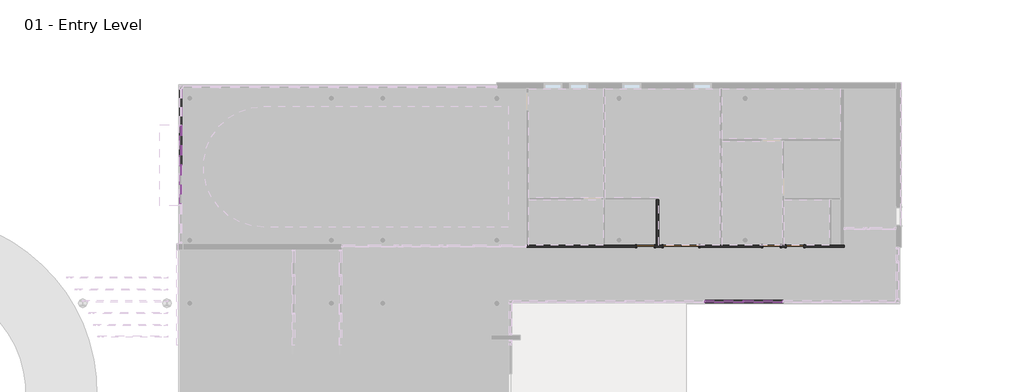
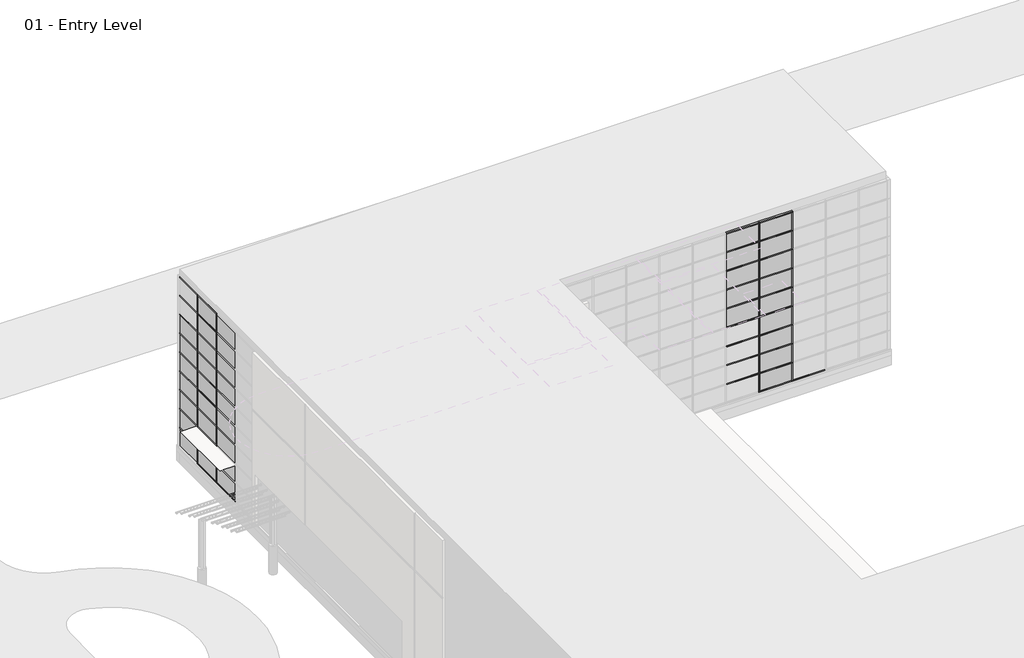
# One storey, part 27 of 35: 76 members, 39 plates, 4 doors, 2 walls.
"""IFC4 building model written with IfcOpenShell, lengths in millimetres."""

from ifc_helpers import new_model, si_unit, origin, origin_with_axes, place, context, project, spatial, polyline, outline, extrude, faceted_brep, transform, mapped, element, save
from components import door_5c6be3c9, door_305aa2a5, door_e5f9f3c4, member_2b49869a, member_391b434c, member_9e90ae50, member_bdc0ab2a, member_d73967ec, system_panel_glazed_1b9d6098, system_panel_glazed_70da479d, system_panel_glazed_16bdbcd7, system_panel_glazed_acb8865d, system_panel_solid_b376696c, system_panel_solid_77e8b053, system_panel_solid_f3cfc6ec

model = new_model("IFC4")

# Units and contexts
model_context = context("Model", 3, world=origin())
ifc_project = project(units=[si_unit("LENGTHUNIT", "METRE", prefix="MILLI")], contexts=[model_context])

# Site, building, storey
site = spatial("IfcSite", under=ifc_project)
building = spatial("IfcBuilding", under=site)
storey = spatial("IfcBuildingStorey", under=building, Name="01 - Entry Level", Elevation=0.0)

# Doors
placement = place(None, origin())
door_shape = door_5c6be3c9(model_context)
element("IfcDoor", 1, ObjectType="Double-Flush : 72\" x 84\"", at=placement, inside=storey, context=model_context, shape_type="MappedRepresentation", body=[
    mapped(door_shape, transform((25985.1207476, 45602.45, 0.0), x_axis=(-1.0, 0.0, 0.0), y_axis=(0.0, -1.0, 0.0), z_axis=(0.0, 0.0, 1.0))),
])
door_2_shape = door_305aa2a5(model_context)
element("IfcDoor", 2, ObjectType="Single-Flush : 36\" x 84\"", at=placement, inside=storey, context=model_context, shape_type="MappedRepresentation", body=[
    mapped(door_2_shape, transform((31865.2207476, 45602.45, 0.0), x_axis=(-1.0, 0.0, 0.0), y_axis=(0.0, -1.0, 0.0), z_axis=(0.0, 0.0, 1.0))),
])
door_3_shape = door_e5f9f3c4(model_context)
element("IfcDoor", 3, ObjectType="Single-Flush : 36\" x 84\"", at=placement, inside=storey, context=model_context, shape_type="MappedRepresentation", body=[
    mapped(door_3_shape, transform((30646.0207476, 45602.45, 0.0), x_axis=(1.0, 0.0, 0.0), y_axis=(0.0, 1.0, 0.0), z_axis=(0.0, 0.0, 1.0))),
])
element("IfcDoor", 4, ObjectType="Single-Flush : 36\" x 84\" 20 Minute Rated", at=placement, inside=storey, context=model_context, shape_type="MappedRepresentation", body=[
    mapped(door_3_shape, transform((24156.3207476, 45602.45, 0.0), x_axis=(1.0, 0.0, 0.0), y_axis=(0.0, 1.0, 0.0), z_axis=(0.0, 0.0, 1.0))),
])

# Members
member_shape = member_2b49869a(model_context)
element("IfcMember", 5, ObjectType="Rectangular Mullion : 2.5\" x 5\" rectangular", at=placement, inside=storey, context=model_context, shape_type="MappedRepresentation", body=[
    mapped(member_shape, transform((29198.2207476, 42751.3, 9753.6), x_axis=(1.0, 0.0, 0.0), y_axis=(0.0, -1.0, 0.0), z_axis=(0.0, 0.0, -1.0))),
])
element("IfcMember", 6, ObjectType="Rectangular Mullion : 2.5\" x 5\" rectangular", at=placement, inside=storey, context=model_context, shape_type="MappedRepresentation", body=[
    mapped(member_shape, transform((31230.2207476, 42751.3, 9753.6), x_axis=(1.0, 0.0, 0.0), y_axis=(0.0, -1.0, 0.0), z_axis=(0.0, 0.0, -1.0))),
])
element("IfcMember", 7, ObjectType="Rectangular Mullion : 2.5\" x 5\" rectangular", at=placement, inside=storey, context=model_context, shape_type="MappedRepresentation", body=[
    mapped(member_shape, transform((178.7207476, 51812.75, 9753.6), x_axis=(0.0, -1.0, 0.0), y_axis=(-1.0, 0.0, 0.0), z_axis=(0.0, 0.0, -1.0))),
])
element("IfcMember", 8, ObjectType="Rectangular Mullion : 2.5\" x 5\" rectangular", at=placement, inside=storey, context=model_context, shape_type="MappedRepresentation", body=[
    mapped(member_shape, transform((178.7207476, 49780.75, 9753.6), x_axis=(0.0, -1.0, 0.0), y_axis=(-1.0, 0.0, 0.0), z_axis=(0.0, 0.0, -1.0))),
])
member_2_shape = member_391b434c(model_context)
element("IfcMember", 9, ObjectType="Rectangular Mullion : 2.5\" x 5\" rectangular", at=placement, inside=storey, context=model_context, shape_type="MappedRepresentation", body=[
    mapped(member_2_shape, transform((29166.4707476, 42751.3, 10972.8), x_axis=(0.0, 0.0, 1.0), y_axis=(0.0, -1.0, 0.0), z_axis=(1.0, 0.0, 0.0))),
])
element("IfcMember", 10, ObjectType="Rectangular Mullion : 2.5\" x 5\" rectangular", at=placement, inside=storey, context=model_context, shape_type="MappedRepresentation", body=[
    mapped(member_2_shape, transform((31198.4707476, 42751.3, 10972.8), x_axis=(0.0, 0.0, 1.0), y_axis=(0.0, -1.0, 0.0), z_axis=(1.0, 0.0, 0.0))),
])
element("IfcMember", 11, ObjectType="Rectangular Mullion : 2.5\" x 5\" rectangular", at=placement, inside=storey, context=model_context, shape_type="MappedRepresentation", body=[
    mapped(member_2_shape, transform((178.7207476, 49812.5, 10972.8), x_axis=(0.0, 0.0, 1.0), y_axis=(-1.0, 0.0, 0.0), z_axis=(0.0, -1.0, 0.0))),
])
element("IfcMember", 12, ObjectType="Rectangular Mullion : 2.5\" x 5\" rectangular", at=placement, inside=storey, context=model_context, shape_type="MappedRepresentation", body=[
    mapped(member_2_shape, transform((29229.9707476, 42751.3, 0.0), x_axis=(0.0, 0.0, -1.0), y_axis=(0.0, -1.0, 0.0), z_axis=(-1.0, 0.0, 0.0))),
])
element("IfcMember", 13, ObjectType="Rectangular Mullion : 2.5\" x 5\" rectangular", at=placement, inside=storey, context=model_context, shape_type="MappedRepresentation", body=[
    mapped(member_2_shape, transform((31261.9707476, 42751.3, 0.0), x_axis=(0.0, 0.0, -1.0), y_axis=(0.0, -1.0, 0.0), z_axis=(-1.0, 0.0, 0.0))),
])
element("IfcMember", 14, ObjectType="Rectangular Mullion : 2.5\" x 5\" rectangular", at=placement, inside=storey, context=model_context, shape_type="MappedRepresentation", body=[
    mapped(member_2_shape, transform((178.7207476, 51781.0, 0.0), x_axis=(0.0, 0.0, -1.0), y_axis=(-1.0, 0.0, 0.0), z_axis=(0.0, 1.0, 0.0))),
])
element("IfcMember", 15, ObjectType="Rectangular Mullion : 2.5\" x 5\" rectangular", at=placement, inside=storey, context=model_context, shape_type="MappedRepresentation", body=[
    mapped(member_2_shape, transform((178.7207476, 49749.0, 0.0), x_axis=(0.0, 0.0, -1.0), y_axis=(-1.0, 0.0, 0.0), z_axis=(0.0, 1.0, 0.0))),
])
member_3_shape = member_9e90ae50(model_context)
element("IfcMember", 16, ObjectType="Rectangular Mullion : 2.5\" x 5\" rectangular", at=placement, inside=storey, context=model_context, shape_type="MappedRepresentation", body=[
    mapped(member_3_shape, transform((29166.4707476, 42751.3, 1219.2), x_axis=(0.0, 0.0, 1.0), y_axis=(0.0, -1.0, 0.0), z_axis=(1.0, 0.0, 0.0))),
])
element("IfcMember", 17, ObjectType="Rectangular Mullion : 2.5\" x 5\" rectangular", at=placement, inside=storey, context=model_context, shape_type="MappedRepresentation", body=[
    mapped(member_3_shape, transform((31198.4707476, 42751.3, 1219.2), x_axis=(0.0, 0.0, 1.0), y_axis=(0.0, -1.0, 0.0), z_axis=(1.0, 0.0, 0.0))),
])
element("IfcMember", 18, ObjectType="Rectangular Mullion : 2.5\" x 5\" rectangular", at=placement, inside=storey, context=model_context, shape_type="MappedRepresentation", body=[
    mapped(member_3_shape, transform((29166.4707476, 42751.3, 2438.4), x_axis=(0.0, 0.0, 1.0), y_axis=(0.0, -1.0, 0.0), z_axis=(1.0, 0.0, 0.0))),
])
element("IfcMember", 19, ObjectType="Rectangular Mullion : 2.5\" x 5\" rectangular", at=placement, inside=storey, context=model_context, shape_type="MappedRepresentation", body=[
    mapped(member_3_shape, transform((31198.4707476, 42751.3, 2438.4), x_axis=(0.0, 0.0, 1.0), y_axis=(0.0, -1.0, 0.0), z_axis=(1.0, 0.0, 0.0))),
])
element("IfcMember", 20, ObjectType="Rectangular Mullion : 2.5\" x 5\" rectangular", at=placement, inside=storey, context=model_context, shape_type="MappedRepresentation", body=[
    mapped(member_3_shape, transform((29166.4707476, 42751.3, 3657.6), x_axis=(0.0, 0.0, 1.0), y_axis=(0.0, -1.0, 0.0), z_axis=(1.0, 0.0, 0.0))),
])
element("IfcMember", 21, ObjectType="Rectangular Mullion : 2.5\" x 5\" rectangular", at=placement, inside=storey, context=model_context, shape_type="MappedRepresentation", body=[
    mapped(member_3_shape, transform((31198.4707476, 42751.3, 3657.6), x_axis=(0.0, 0.0, 1.0), y_axis=(0.0, -1.0, 0.0), z_axis=(1.0, 0.0, 0.0))),
])
element("IfcMember", 22, ObjectType="Rectangular Mullion : 2.5\" x 5\" rectangular", at=placement, inside=storey, context=model_context, shape_type="MappedRepresentation", body=[
    mapped(member_3_shape, transform((29166.4707476, 42751.3, 4876.8), x_axis=(0.0, 0.0, 1.0), y_axis=(0.0, -1.0, 0.0), z_axis=(1.0, 0.0, 0.0))),
])
element("IfcMember", 23, ObjectType="Rectangular Mullion : 2.5\" x 5\" rectangular", at=placement, inside=storey, context=model_context, shape_type="MappedRepresentation", body=[
    mapped(member_3_shape, transform((31198.4707476, 42751.3, 4876.8), x_axis=(0.0, 0.0, 1.0), y_axis=(0.0, -1.0, 0.0), z_axis=(1.0, 0.0, 0.0))),
])
element("IfcMember", 24, ObjectType="Rectangular Mullion : 2.5\" x 5\" rectangular", at=placement, inside=storey, context=model_context, shape_type="MappedRepresentation", body=[
    mapped(member_3_shape, transform((29166.4707476, 42751.3, 6096.0), x_axis=(0.0, 0.0, 1.0), y_axis=(0.0, -1.0, 0.0), z_axis=(1.0, 0.0, 0.0))),
])
element("IfcMember", 25, ObjectType="Rectangular Mullion : 2.5\" x 5\" rectangular", at=placement, inside=storey, context=model_context, shape_type="MappedRepresentation", body=[
    mapped(member_3_shape, transform((31198.4707476, 42751.3, 6096.0), x_axis=(0.0, 0.0, 1.0), y_axis=(0.0, -1.0, 0.0), z_axis=(1.0, 0.0, 0.0))),
])
element("IfcMember", 26, ObjectType="Rectangular Mullion : 2.5\" x 5\" rectangular", at=placement, inside=storey, context=model_context, shape_type="MappedRepresentation", body=[
    mapped(member_3_shape, transform((29166.4707476, 42751.3, 7315.2), x_axis=(0.0, 0.0, 1.0), y_axis=(0.0, -1.0, 0.0), z_axis=(1.0, 0.0, 0.0))),
])
element("IfcMember", 27, ObjectType="Rectangular Mullion : 2.5\" x 5\" rectangular", at=placement, inside=storey, context=model_context, shape_type="MappedRepresentation", body=[
    mapped(member_3_shape, transform((31198.4707476, 42751.3, 7315.2), x_axis=(0.0, 0.0, 1.0), y_axis=(0.0, -1.0, 0.0), z_axis=(1.0, 0.0, 0.0))),
])
element("IfcMember", 28, ObjectType="Rectangular Mullion : 2.5\" x 5\" rectangular", at=placement, inside=storey, context=model_context, shape_type="MappedRepresentation", body=[
    mapped(member_3_shape, transform((29166.4707476, 42751.3, 8534.4), x_axis=(0.0, 0.0, 1.0), y_axis=(0.0, -1.0, 0.0), z_axis=(1.0, 0.0, 0.0))),
])
element("IfcMember", 29, ObjectType="Rectangular Mullion : 2.5\" x 5\" rectangular", at=placement, inside=storey, context=model_context, shape_type="MappedRepresentation", body=[
    mapped(member_3_shape, transform((31198.4707476, 42751.3, 8534.4), x_axis=(0.0, 0.0, 1.0), y_axis=(0.0, -1.0, 0.0), z_axis=(1.0, 0.0, 0.0))),
])
element("IfcMember", 30, ObjectType="Rectangular Mullion : 2.5\" x 5\" rectangular", at=placement, inside=storey, context=model_context, shape_type="MappedRepresentation", body=[
    mapped(member_3_shape, transform((29166.4707476, 42751.3, 9753.6), x_axis=(0.0, 0.0, 1.0), y_axis=(0.0, -1.0, 0.0), z_axis=(1.0, 0.0, 0.0))),
])
element("IfcMember", 31, ObjectType="Rectangular Mullion : 2.5\" x 5\" rectangular", at=placement, inside=storey, context=model_context, shape_type="MappedRepresentation", body=[
    mapped(member_3_shape, transform((31198.4707476, 42751.3, 9753.6), x_axis=(0.0, 0.0, 1.0), y_axis=(0.0, -1.0, 0.0), z_axis=(1.0, 0.0, 0.0))),
])
element("IfcMember", 32, ObjectType="Rectangular Mullion : 2.5\" x 5\" rectangular", at=placement, inside=storey, context=model_context, shape_type="MappedRepresentation", body=[
    mapped(member_3_shape, transform((178.7207476, 49812.5, 1219.2), x_axis=(0.0, 0.0, 1.0), y_axis=(-1.0, 0.0, 0.0), z_axis=(0.0, -1.0, 0.0))),
])
element("IfcMember", 33, ObjectType="Rectangular Mullion : 2.5\" x 5\" rectangular", at=placement, inside=storey, context=model_context, shape_type="MappedRepresentation", body=[
    mapped(member_3_shape, transform((178.7207476, 49812.5, 2438.4), x_axis=(0.0, 0.0, 1.0), y_axis=(-1.0, 0.0, 0.0), z_axis=(0.0, -1.0, 0.0))),
])
element("IfcMember", 34, ObjectType="Rectangular Mullion : 2.5\" x 5\" rectangular", at=placement, inside=storey, context=model_context, shape_type="MappedRepresentation", body=[
    mapped(member_3_shape, transform((178.7207476, 49812.5, 3657.6), x_axis=(0.0, 0.0, 1.0), y_axis=(-1.0, 0.0, 0.0), z_axis=(0.0, -1.0, 0.0))),
])
element("IfcMember", 35, ObjectType="Rectangular Mullion : 2.5\" x 5\" rectangular", at=placement, inside=storey, context=model_context, shape_type="MappedRepresentation", body=[
    mapped(member_3_shape, transform((178.7207476, 49812.5, 4876.8), x_axis=(0.0, 0.0, 1.0), y_axis=(-1.0, 0.0, 0.0), z_axis=(0.0, -1.0, 0.0))),
])
element("IfcMember", 36, ObjectType="Rectangular Mullion : 2.5\" x 5\" rectangular", at=placement, inside=storey, context=model_context, shape_type="MappedRepresentation", body=[
    mapped(member_3_shape, transform((178.7207476, 49812.5, 6096.0), x_axis=(0.0, 0.0, 1.0), y_axis=(-1.0, 0.0, 0.0), z_axis=(0.0, -1.0, 0.0))),
])
element("IfcMember", 37, ObjectType="Rectangular Mullion : 2.5\" x 5\" rectangular", at=placement, inside=storey, context=model_context, shape_type="MappedRepresentation", body=[
    mapped(member_3_shape, transform((178.7207476, 49812.5, 7315.2), x_axis=(0.0, 0.0, 1.0), y_axis=(-1.0, 0.0, 0.0), z_axis=(0.0, -1.0, 0.0))),
])
element("IfcMember", 38, ObjectType="Rectangular Mullion : 2.5\" x 5\" rectangular", at=placement, inside=storey, context=model_context, shape_type="MappedRepresentation", body=[
    mapped(member_3_shape, transform((178.7207476, 49812.5, 8534.4), x_axis=(0.0, 0.0, 1.0), y_axis=(-1.0, 0.0, 0.0), z_axis=(0.0, -1.0, 0.0))),
])
element("IfcMember", 39, ObjectType="Rectangular Mullion : 2.5\" x 5\" rectangular", at=placement, inside=storey, context=model_context, shape_type="MappedRepresentation", body=[
    mapped(member_3_shape, transform((178.7207476, 49812.5, 9753.6), x_axis=(0.0, 0.0, 1.0), y_axis=(-1.0, 0.0, 0.0), z_axis=(0.0, -1.0, 0.0))),
])
element("IfcMember", 40, ObjectType="Rectangular Mullion : 2.5\" x 5\" rectangular", at=placement, inside=storey, context=model_context, shape_type="MappedRepresentation", body=[
    mapped(member_shape, transform((29198.2207476, 42751.3, 0.0), x_axis=(1.0, 0.0, 0.0), y_axis=(0.0, -1.0, 0.0), z_axis=(0.0, 0.0, -1.0))),
])
element("IfcMember", 41, ObjectType="Rectangular Mullion : 2.5\" x 5\" rectangular", at=placement, inside=storey, context=model_context, shape_type="MappedRepresentation", body=[
    mapped(member_shape, transform((31230.2207476, 42751.3, 0.0), x_axis=(1.0, 0.0, 0.0), y_axis=(0.0, -1.0, 0.0), z_axis=(0.0, 0.0, -1.0))),
])
element("IfcMember", 42, ObjectType="Rectangular Mullion : 2.5\" x 5\" rectangular", at=placement, inside=storey, context=model_context, shape_type="MappedRepresentation", body=[
    mapped(member_shape, transform((178.7207476, 51812.75, 0.0), x_axis=(0.0, -1.0, 0.0), y_axis=(-1.0, 0.0, 0.0), z_axis=(0.0, 0.0, -1.0))),
])
element("IfcMember", 43, ObjectType="Rectangular Mullion : 2.5\" x 5\" rectangular", at=placement, inside=storey, context=model_context, shape_type="MappedRepresentation", body=[
    mapped(member_shape, transform((178.7207476, 49780.75, 0.0), x_axis=(0.0, -1.0, 0.0), y_axis=(-1.0, 0.0, 0.0), z_axis=(0.0, 0.0, -1.0))),
])
element("IfcMember", 44, ObjectType="Rectangular Mullion : 2.5\" x 5\" rectangular", at=placement, inside=storey, context=model_context, shape_type="MappedRepresentation", body=[
    mapped(member_shape, transform((29198.2207476, 42751.3, 1219.2), x_axis=(1.0, 0.0, 0.0), y_axis=(0.0, -1.0, 0.0), z_axis=(0.0, 0.0, -1.0))),
])
element("IfcMember", 45, ObjectType="Rectangular Mullion : 2.5\" x 5\" rectangular", at=placement, inside=storey, context=model_context, shape_type="MappedRepresentation", body=[
    mapped(member_shape, transform((31230.2207476, 42751.3, 1219.2), x_axis=(1.0, 0.0, 0.0), y_axis=(0.0, -1.0, 0.0), z_axis=(0.0, 0.0, -1.0))),
])
element("IfcMember", 46, ObjectType="Rectangular Mullion : 2.5\" x 5\" rectangular", at=placement, inside=storey, context=model_context, shape_type="MappedRepresentation", body=[
    mapped(member_shape, transform((29198.2207476, 42751.3, 2438.4), x_axis=(1.0, 0.0, 0.0), y_axis=(0.0, -1.0, 0.0), z_axis=(0.0, 0.0, -1.0))),
])
element("IfcMember", 47, ObjectType="Rectangular Mullion : 2.5\" x 5\" rectangular", at=placement, inside=storey, context=model_context, shape_type="MappedRepresentation", body=[
    mapped(member_shape, transform((31230.2207476, 42751.3, 2438.4), x_axis=(1.0, 0.0, 0.0), y_axis=(0.0, -1.0, 0.0), z_axis=(0.0, 0.0, -1.0))),
])
element("IfcMember", 48, ObjectType="Rectangular Mullion : 2.5\" x 5\" rectangular", at=placement, inside=storey, context=model_context, shape_type="MappedRepresentation", body=[
    mapped(member_shape, transform((29198.2207476, 42751.3, 3657.6), x_axis=(1.0, 0.0, 0.0), y_axis=(0.0, -1.0, 0.0), z_axis=(0.0, 0.0, -1.0))),
])
element("IfcMember", 49, ObjectType="Rectangular Mullion : 2.5\" x 5\" rectangular", at=placement, inside=storey, context=model_context, shape_type="MappedRepresentation", body=[
    mapped(member_shape, transform((31230.2207476, 42751.3, 3657.6), x_axis=(1.0, 0.0, 0.0), y_axis=(0.0, -1.0, 0.0), z_axis=(0.0, 0.0, -1.0))),
])
element("IfcMember", 50, ObjectType="Rectangular Mullion : 2.5\" x 5\" rectangular", at=placement, inside=storey, context=model_context, shape_type="MappedRepresentation", body=[
    mapped(member_shape, transform((29198.2207476, 42751.3, 4876.8), x_axis=(1.0, 0.0, 0.0), y_axis=(0.0, -1.0, 0.0), z_axis=(0.0, 0.0, -1.0))),
])
element("IfcMember", 51, ObjectType="Rectangular Mullion : 2.5\" x 5\" rectangular", at=placement, inside=storey, context=model_context, shape_type="MappedRepresentation", body=[
    mapped(member_shape, transform((31230.2207476, 42751.3, 4876.8), x_axis=(1.0, 0.0, 0.0), y_axis=(0.0, -1.0, 0.0), z_axis=(0.0, 0.0, -1.0))),
])
element("IfcMember", 52, ObjectType="Rectangular Mullion : 2.5\" x 5\" rectangular", at=placement, inside=storey, context=model_context, shape_type="MappedRepresentation", body=[
    mapped(member_shape, transform((29198.2207476, 42751.3, 6096.0), x_axis=(1.0, 0.0, 0.0), y_axis=(0.0, -1.0, 0.0), z_axis=(0.0, 0.0, -1.0))),
])
element("IfcMember", 53, ObjectType="Rectangular Mullion : 2.5\" x 5\" rectangular", at=placement, inside=storey, context=model_context, shape_type="MappedRepresentation", body=[
    mapped(member_shape, transform((31230.2207476, 42751.3, 6096.0), x_axis=(1.0, 0.0, 0.0), y_axis=(0.0, -1.0, 0.0), z_axis=(0.0, 0.0, -1.0))),
])
element("IfcMember", 54, ObjectType="Rectangular Mullion : 2.5\" x 5\" rectangular", at=placement, inside=storey, context=model_context, shape_type="MappedRepresentation", body=[
    mapped(member_shape, transform((29198.2207476, 42751.3, 7315.2), x_axis=(1.0, 0.0, 0.0), y_axis=(0.0, -1.0, 0.0), z_axis=(0.0, 0.0, -1.0))),
])
element("IfcMember", 55, ObjectType="Rectangular Mullion : 2.5\" x 5\" rectangular", at=placement, inside=storey, context=model_context, shape_type="MappedRepresentation", body=[
    mapped(member_shape, transform((31230.2207476, 42751.3, 7315.2), x_axis=(1.0, 0.0, 0.0), y_axis=(0.0, -1.0, 0.0), z_axis=(0.0, 0.0, -1.0))),
])
element("IfcMember", 56, ObjectType="Rectangular Mullion : 2.5\" x 5\" rectangular", at=placement, inside=storey, context=model_context, shape_type="MappedRepresentation", body=[
    mapped(member_shape, transform((29198.2207476, 42751.3, 8534.4), x_axis=(1.0, 0.0, 0.0), y_axis=(0.0, -1.0, 0.0), z_axis=(0.0, 0.0, -1.0))),
])
element("IfcMember", 57, ObjectType="Rectangular Mullion : 2.5\" x 5\" rectangular", at=placement, inside=storey, context=model_context, shape_type="MappedRepresentation", body=[
    mapped(member_shape, transform((31230.2207476, 42751.3, 8534.4), x_axis=(1.0, 0.0, 0.0), y_axis=(0.0, -1.0, 0.0), z_axis=(0.0, 0.0, -1.0))),
])
element("IfcMember", 58, ObjectType="Rectangular Mullion : 2.5\" x 5\" rectangular", at=placement, inside=storey, context=model_context, shape_type="MappedRepresentation", body=[
    mapped(member_shape, transform((178.7207476, 51812.75, 1219.2), x_axis=(0.0, -1.0, 0.0), y_axis=(-1.0, 0.0, 0.0), z_axis=(0.0, 0.0, -1.0))),
])
element("IfcMember", 59, ObjectType="Rectangular Mullion : 2.5\" x 5\" rectangular", at=placement, inside=storey, context=model_context, shape_type="MappedRepresentation", body=[
    mapped(member_shape, transform((178.7207476, 49780.75, 1219.2), x_axis=(0.0, -1.0, 0.0), y_axis=(-1.0, 0.0, 0.0), z_axis=(0.0, 0.0, -1.0))),
])
element("IfcMember", 60, ObjectType="Rectangular Mullion : 2.5\" x 5\" rectangular", at=placement, inside=storey, context=model_context, shape_type="MappedRepresentation", body=[
    mapped(member_shape, transform((178.7207476, 51812.75, 2438.4), x_axis=(0.0, -1.0, 0.0), y_axis=(-1.0, 0.0, 0.0), z_axis=(0.0, 0.0, -1.0))),
])
element("IfcMember", 61, ObjectType="Rectangular Mullion : 2.5\" x 5\" rectangular", at=placement, inside=storey, context=model_context, shape_type="MappedRepresentation", body=[
    mapped(member_shape, transform((178.7207476, 49780.75, 2438.4), x_axis=(0.0, -1.0, 0.0), y_axis=(-1.0, 0.0, 0.0), z_axis=(0.0, 0.0, -1.0))),
])
element("IfcMember", 62, ObjectType="Rectangular Mullion : 2.5\" x 5\" rectangular", at=placement, inside=storey, context=model_context, shape_type="MappedRepresentation", body=[
    mapped(member_shape, transform((178.7207476, 51812.75, 3657.6), x_axis=(0.0, -1.0, 0.0), y_axis=(-1.0, 0.0, 0.0), z_axis=(0.0, 0.0, -1.0))),
])
element("IfcMember", 63, ObjectType="Rectangular Mullion : 2.5\" x 5\" rectangular", at=placement, inside=storey, context=model_context, shape_type="MappedRepresentation", body=[
    mapped(member_shape, transform((178.7207476, 49780.75, 3657.6), x_axis=(0.0, -1.0, 0.0), y_axis=(-1.0, 0.0, 0.0), z_axis=(0.0, 0.0, -1.0))),
])
element("IfcMember", 64, ObjectType="Rectangular Mullion : 2.5\" x 5\" rectangular", at=placement, inside=storey, context=model_context, shape_type="MappedRepresentation", body=[
    mapped(member_shape, transform((178.7207476, 51812.75, 4876.8), x_axis=(0.0, -1.0, 0.0), y_axis=(-1.0, 0.0, 0.0), z_axis=(0.0, 0.0, -1.0))),
])
element("IfcMember", 65, ObjectType="Rectangular Mullion : 2.5\" x 5\" rectangular", at=placement, inside=storey, context=model_context, shape_type="MappedRepresentation", body=[
    mapped(member_shape, transform((178.7207476, 49780.75, 4876.8), x_axis=(0.0, -1.0, 0.0), y_axis=(-1.0, 0.0, 0.0), z_axis=(0.0, 0.0, -1.0))),
])
element("IfcMember", 66, ObjectType="Rectangular Mullion : 2.5\" x 5\" rectangular", at=placement, inside=storey, context=model_context, shape_type="MappedRepresentation", body=[
    mapped(member_shape, transform((178.7207476, 51812.75, 6096.0), x_axis=(0.0, -1.0, 0.0), y_axis=(-1.0, 0.0, 0.0), z_axis=(0.0, 0.0, -1.0))),
])
element("IfcMember", 67, ObjectType="Rectangular Mullion : 2.5\" x 5\" rectangular", at=placement, inside=storey, context=model_context, shape_type="MappedRepresentation", body=[
    mapped(member_shape, transform((178.7207476, 49780.75, 6096.0), x_axis=(0.0, -1.0, 0.0), y_axis=(-1.0, 0.0, 0.0), z_axis=(0.0, 0.0, -1.0))),
])
element("IfcMember", 68, ObjectType="Rectangular Mullion : 2.5\" x 5\" rectangular", at=placement, inside=storey, context=model_context, shape_type="MappedRepresentation", body=[
    mapped(member_shape, transform((178.7207476, 51812.75, 7315.2), x_axis=(0.0, -1.0, 0.0), y_axis=(-1.0, 0.0, 0.0), z_axis=(0.0, 0.0, -1.0))),
])
element("IfcMember", 69, ObjectType="Rectangular Mullion : 2.5\" x 5\" rectangular", at=placement, inside=storey, context=model_context, shape_type="MappedRepresentation", body=[
    mapped(member_shape, transform((178.7207476, 49780.75, 7315.2), x_axis=(0.0, -1.0, 0.0), y_axis=(-1.0, 0.0, 0.0), z_axis=(0.0, 0.0, -1.0))),
])
element("IfcMember", 70, ObjectType="Rectangular Mullion : 2.5\" x 5\" rectangular", at=placement, inside=storey, context=model_context, shape_type="MappedRepresentation", body=[
    mapped(member_shape, transform((178.7207476, 51812.75, 8534.4), x_axis=(0.0, -1.0, 0.0), y_axis=(-1.0, 0.0, 0.0), z_axis=(0.0, 0.0, -1.0))),
])
element("IfcMember", 71, ObjectType="Rectangular Mullion : 2.5\" x 5\" rectangular", at=placement, inside=storey, context=model_context, shape_type="MappedRepresentation", body=[
    mapped(member_shape, transform((178.7207476, 49780.75, 8534.4), x_axis=(0.0, -1.0, 0.0), y_axis=(-1.0, 0.0, 0.0), z_axis=(0.0, 0.0, -1.0))),
])
member_4_shape = member_bdc0ab2a(model_context)
element("IfcMember", 72, ObjectType="Rectangular Mullion : 2.5\" x 5\" rectangular", at=placement, inside=storey, context=model_context, shape_type="MappedRepresentation", body=[
    mapped(member_4_shape, transform((178.7207476, 51844.5, 10972.8), x_axis=(0.0, 0.0, 1.0), y_axis=(-1.0, 0.0, 0.0), z_axis=(0.0, -1.0, 0.0))),
])
member_5_shape = member_d73967ec(model_context)
element("IfcMember", 73, ObjectType="Rectangular Mullion : 2.5\" x 5\" rectangular", at=placement, inside=storey, context=model_context, shape_type="MappedRepresentation", body=[
    mapped(member_5_shape, transform((178.7207476, 51844.5, 1219.2), x_axis=(0.0, 0.0, 1.0), y_axis=(-1.0, 0.0, 0.0), z_axis=(0.0, -1.0, 0.0))),
])
element("IfcMember", 74, ObjectType="Rectangular Mullion : 2.5\" x 5\" rectangular", at=placement, inside=storey, context=model_context, shape_type="MappedRepresentation", body=[
    mapped(member_5_shape, transform((178.7207476, 51844.5, 2438.4), x_axis=(0.0, 0.0, 1.0), y_axis=(-1.0, 0.0, 0.0), z_axis=(0.0, -1.0, 0.0))),
])
element("IfcMember", 75, ObjectType="Rectangular Mullion : 2.5\" x 5\" rectangular", at=placement, inside=storey, context=model_context, shape_type="MappedRepresentation", body=[
    mapped(member_5_shape, transform((178.7207476, 51844.5, 3657.6), x_axis=(0.0, 0.0, 1.0), y_axis=(-1.0, 0.0, 0.0), z_axis=(0.0, -1.0, 0.0))),
])
element("IfcMember", 76, ObjectType="Rectangular Mullion : 2.5\" x 5\" rectangular", at=placement, inside=storey, context=model_context, shape_type="MappedRepresentation", body=[
    mapped(member_5_shape, transform((178.7207476, 51844.5, 4876.8), x_axis=(0.0, 0.0, 1.0), y_axis=(-1.0, 0.0, 0.0), z_axis=(0.0, -1.0, 0.0))),
])
element("IfcMember", 77, ObjectType="Rectangular Mullion : 2.5\" x 5\" rectangular", at=placement, inside=storey, context=model_context, shape_type="MappedRepresentation", body=[
    mapped(member_5_shape, transform((178.7207476, 51844.5, 6096.0), x_axis=(0.0, 0.0, 1.0), y_axis=(-1.0, 0.0, 0.0), z_axis=(0.0, -1.0, 0.0))),
])
element("IfcMember", 78, ObjectType="Rectangular Mullion : 2.5\" x 5\" rectangular", at=placement, inside=storey, context=model_context, shape_type="MappedRepresentation", body=[
    mapped(member_5_shape, transform((178.7207476, 51844.5, 7315.2), x_axis=(0.0, 0.0, 1.0), y_axis=(-1.0, 0.0, 0.0), z_axis=(0.0, -1.0, 0.0))),
])
element("IfcMember", 79, ObjectType="Rectangular Mullion : 2.5\" x 5\" rectangular", at=placement, inside=storey, context=model_context, shape_type="MappedRepresentation", body=[
    mapped(member_5_shape, transform((178.7207476, 51844.5, 8534.4), x_axis=(0.0, 0.0, 1.0), y_axis=(-1.0, 0.0, 0.0), z_axis=(0.0, -1.0, 0.0))),
])
element("IfcMember", 80, ObjectType="Rectangular Mullion : 2.5\" x 5\" rectangular", at=placement, inside=storey, context=model_context, shape_type="MappedRepresentation", body=[
    mapped(member_5_shape, transform((178.7207476, 51844.5, 9753.6), x_axis=(0.0, 0.0, 1.0), y_axis=(-1.0, 0.0, 0.0), z_axis=(0.0, -1.0, 0.0))),
])

# Plates
system_panel_glazed_shape = system_panel_glazed_1b9d6098(model_context)
element("IfcPlate", 81, ObjectType="System Panel : Glazed", at=placement, inside=storey, context=model_context, shape_type="MappedRepresentation", body=[
    mapped(system_panel_glazed_shape, transform((30214.2207476, 42751.3, 63.5), x_axis=(1.0, 0.0, 0.0), y_axis=(0.0, 1.0, 0.0), z_axis=(0.0, 0.0, 1.0))),
])
element("IfcPlate", 82, ObjectType="System Panel : Glazed", at=placement, inside=storey, context=model_context, shape_type="MappedRepresentation", body=[
    mapped(system_panel_glazed_shape, transform((28182.2207476, 42751.3, 9785.35), x_axis=(1.0, 0.0, 0.0), y_axis=(0.0, 1.0, 0.0), z_axis=(0.0, 0.0, 1.0))),
])
element("IfcPlate", 83, ObjectType="System Panel : Glazed", at=placement, inside=storey, context=model_context, shape_type="MappedRepresentation", body=[
    mapped(system_panel_glazed_shape, transform((30214.2207476, 42751.3, 9785.35), x_axis=(1.0, 0.0, 0.0), y_axis=(0.0, 1.0, 0.0), z_axis=(0.0, 0.0, 1.0))),
])
element("IfcPlate", 84, ObjectType="System Panel : Glazed", at=placement, inside=storey, context=model_context, shape_type="MappedRepresentation", body=[
    mapped(system_panel_glazed_shape, transform((178.7207476, 50796.75, 63.5), x_axis=(0.0, -1.0, 0.0), y_axis=(1.0, 0.0, 0.0), z_axis=(0.0, 0.0, 1.0))),
])
element("IfcPlate", 85, ObjectType="System Panel : Glazed", at=placement, inside=storey, context=model_context, shape_type="MappedRepresentation", body=[
    mapped(system_panel_glazed_shape, transform((178.7207476, 48764.75, 63.5), x_axis=(0.0, -1.0, 0.0), y_axis=(1.0, 0.0, 0.0), z_axis=(0.0, 0.0, 1.0))),
])
system_panel_glazed_2_shape = system_panel_glazed_70da479d(model_context)
element("IfcPlate", 86, ObjectType="System Panel : Glazed", at=placement, inside=storey, context=model_context, shape_type="MappedRepresentation", body=[
    mapped(system_panel_glazed_2_shape, transform((30214.2207476, 42751.3, 1250.95), x_axis=(1.0, 0.0, 0.0), y_axis=(0.0, 1.0, 0.0), z_axis=(0.0, 0.0, 1.0))),
])
element("IfcPlate", 87, ObjectType="System Panel : Glazed", at=placement, inside=storey, context=model_context, shape_type="MappedRepresentation", body=[
    mapped(system_panel_glazed_2_shape, transform((30214.2207476, 42751.3, 2470.15), x_axis=(1.0, 0.0, 0.0), y_axis=(0.0, 1.0, 0.0), z_axis=(0.0, 0.0, 1.0))),
])
element("IfcPlate", 88, ObjectType="System Panel : Glazed", at=placement, inside=storey, context=model_context, shape_type="MappedRepresentation", body=[
    mapped(system_panel_glazed_2_shape, transform((30214.2207476, 42751.3, 3689.35), x_axis=(1.0, 0.0, 0.0), y_axis=(0.0, 1.0, 0.0), z_axis=(0.0, 0.0, 1.0))),
])
element("IfcPlate", 89, ObjectType="System Panel : Glazed", at=placement, inside=storey, context=model_context, shape_type="MappedRepresentation", body=[
    mapped(system_panel_glazed_2_shape, transform((28182.2207476, 42751.3, 4908.55), x_axis=(1.0, 0.0, 0.0), y_axis=(0.0, 1.0, 0.0), z_axis=(0.0, 0.0, 1.0))),
])
element("IfcPlate", 90, ObjectType="System Panel : Glazed", at=placement, inside=storey, context=model_context, shape_type="MappedRepresentation", body=[
    mapped(system_panel_glazed_2_shape, transform((30214.2207476, 42751.3, 4908.55), x_axis=(1.0, 0.0, 0.0), y_axis=(0.0, 1.0, 0.0), z_axis=(0.0, 0.0, 1.0))),
])
element("IfcPlate", 91, ObjectType="System Panel : Glazed", at=placement, inside=storey, context=model_context, shape_type="MappedRepresentation", body=[
    mapped(system_panel_glazed_2_shape, transform((28182.2207476, 42751.3, 6127.75), x_axis=(1.0, 0.0, 0.0), y_axis=(0.0, 1.0, 0.0), z_axis=(0.0, 0.0, 1.0))),
])
element("IfcPlate", 92, ObjectType="System Panel : Glazed", at=placement, inside=storey, context=model_context, shape_type="MappedRepresentation", body=[
    mapped(system_panel_glazed_2_shape, transform((30214.2207476, 42751.3, 6127.75), x_axis=(1.0, 0.0, 0.0), y_axis=(0.0, 1.0, 0.0), z_axis=(0.0, 0.0, 1.0))),
])
element("IfcPlate", 93, ObjectType="System Panel : Glazed", at=placement, inside=storey, context=model_context, shape_type="MappedRepresentation", body=[
    mapped(system_panel_glazed_2_shape, transform((28182.2207476, 42751.3, 7346.95), x_axis=(1.0, 0.0, 0.0), y_axis=(0.0, 1.0, 0.0), z_axis=(0.0, 0.0, 1.0))),
])
element("IfcPlate", 94, ObjectType="System Panel : Glazed", at=placement, inside=storey, context=model_context, shape_type="MappedRepresentation", body=[
    mapped(system_panel_glazed_2_shape, transform((30214.2207476, 42751.3, 7346.95), x_axis=(1.0, 0.0, 0.0), y_axis=(0.0, 1.0, 0.0), z_axis=(0.0, 0.0, 1.0))),
])
element("IfcPlate", 95, ObjectType="System Panel : Glazed", at=placement, inside=storey, context=model_context, shape_type="MappedRepresentation", body=[
    mapped(system_panel_glazed_2_shape, transform((28182.2207476, 42751.3, 8566.15), x_axis=(1.0, 0.0, 0.0), y_axis=(0.0, 1.0, 0.0), z_axis=(0.0, 0.0, 1.0))),
])
element("IfcPlate", 96, ObjectType="System Panel : Glazed", at=placement, inside=storey, context=model_context, shape_type="MappedRepresentation", body=[
    mapped(system_panel_glazed_2_shape, transform((30214.2207476, 42751.3, 8566.15), x_axis=(1.0, 0.0, 0.0), y_axis=(0.0, 1.0, 0.0), z_axis=(0.0, 0.0, 1.0))),
])
element("IfcPlate", 97, ObjectType="System Panel : Glazed", at=placement, inside=storey, context=model_context, shape_type="MappedRepresentation", body=[
    mapped(system_panel_glazed_2_shape, transform((178.7207476, 50796.75, 1250.95), x_axis=(0.0, -1.0, 0.0), y_axis=(1.0, 0.0, 0.0), z_axis=(0.0, 0.0, 1.0))),
])
element("IfcPlate", 98, ObjectType="System Panel : Glazed", at=placement, inside=storey, context=model_context, shape_type="MappedRepresentation", body=[
    mapped(system_panel_glazed_2_shape, transform((178.7207476, 48764.75, 1250.95), x_axis=(0.0, -1.0, 0.0), y_axis=(1.0, 0.0, 0.0), z_axis=(0.0, 0.0, 1.0))),
])
element("IfcPlate", 99, ObjectType="System Panel : Glazed", at=placement, inside=storey, context=model_context, shape_type="MappedRepresentation", body=[
    mapped(system_panel_glazed_2_shape, transform((178.7207476, 50796.75, 3689.35), x_axis=(0.0, -1.0, 0.0), y_axis=(1.0, 0.0, 0.0), z_axis=(0.0, 0.0, 1.0))),
])
element("IfcPlate", 100, ObjectType="System Panel : Glazed", at=placement, inside=storey, context=model_context, shape_type="MappedRepresentation", body=[
    mapped(system_panel_glazed_2_shape, transform((178.7207476, 48764.75, 3689.35), x_axis=(0.0, -1.0, 0.0), y_axis=(1.0, 0.0, 0.0), z_axis=(0.0, 0.0, 1.0))),
])
element("IfcPlate", 101, ObjectType="System Panel : Glazed", at=placement, inside=storey, context=model_context, shape_type="MappedRepresentation", body=[
    mapped(system_panel_glazed_2_shape, transform((178.7207476, 50796.75, 4908.55), x_axis=(0.0, -1.0, 0.0), y_axis=(1.0, 0.0, 0.0), z_axis=(0.0, 0.0, 1.0))),
])
element("IfcPlate", 102, ObjectType="System Panel : Glazed", at=placement, inside=storey, context=model_context, shape_type="MappedRepresentation", body=[
    mapped(system_panel_glazed_2_shape, transform((178.7207476, 48764.75, 4908.55), x_axis=(0.0, -1.0, 0.0), y_axis=(1.0, 0.0, 0.0), z_axis=(0.0, 0.0, 1.0))),
])
element("IfcPlate", 103, ObjectType="System Panel : Glazed", at=placement, inside=storey, context=model_context, shape_type="MappedRepresentation", body=[
    mapped(system_panel_glazed_2_shape, transform((178.7207476, 50796.75, 7346.95), x_axis=(0.0, -1.0, 0.0), y_axis=(1.0, 0.0, 0.0), z_axis=(0.0, 0.0, 1.0))),
])
element("IfcPlate", 104, ObjectType="System Panel : Glazed", at=placement, inside=storey, context=model_context, shape_type="MappedRepresentation", body=[
    mapped(system_panel_glazed_2_shape, transform((178.7207476, 48764.75, 7346.95), x_axis=(0.0, -1.0, 0.0), y_axis=(1.0, 0.0, 0.0), z_axis=(0.0, 0.0, 1.0))),
])
element("IfcPlate", 105, ObjectType="System Panel : Glazed", at=placement, inside=storey, context=model_context, shape_type="MappedRepresentation", body=[
    mapped(system_panel_glazed_2_shape, transform((178.7207476, 50796.75, 8566.15), x_axis=(0.0, -1.0, 0.0), y_axis=(1.0, 0.0, 0.0), z_axis=(0.0, 0.0, 1.0))),
])
element("IfcPlate", 106, ObjectType="System Panel : Glazed", at=placement, inside=storey, context=model_context, shape_type="MappedRepresentation", body=[
    mapped(system_panel_glazed_2_shape, transform((178.7207476, 48764.75, 8566.15), x_axis=(0.0, -1.0, 0.0), y_axis=(1.0, 0.0, 0.0), z_axis=(0.0, 0.0, 1.0))),
])
system_panel_glazed_3_shape = system_panel_glazed_16bdbcd7(model_context)
element("IfcPlate", 107, ObjectType="System Panel : Glazed", at=placement, inside=storey, context=model_context, shape_type="MappedRepresentation", body=[
    mapped(system_panel_glazed_3_shape, transform((178.7207476, 52771.6, 63.5), x_axis=(0.0, -1.0, 0.0), y_axis=(1.0, 0.0, 0.0), z_axis=(0.0, 0.0, 1.0))),
])
system_panel_glazed_4_shape = system_panel_glazed_acb8865d(model_context)
element("IfcPlate", 108, ObjectType="System Panel : Glazed", at=placement, inside=storey, context=model_context, shape_type="MappedRepresentation", body=[
    mapped(system_panel_glazed_4_shape, transform((178.7207476, 52771.6, 1250.95), x_axis=(0.0, -1.0, 0.0), y_axis=(1.0, 0.0, 0.0), z_axis=(0.0, 0.0, 1.0))),
])
element("IfcPlate", 109, ObjectType="System Panel : Glazed", at=placement, inside=storey, context=model_context, shape_type="MappedRepresentation", body=[
    mapped(system_panel_glazed_4_shape, transform((178.7207476, 52771.6, 3689.35), x_axis=(0.0, -1.0, 0.0), y_axis=(1.0, 0.0, 0.0), z_axis=(0.0, 0.0, 1.0))),
])
element("IfcPlate", 110, ObjectType="System Panel : Glazed", at=placement, inside=storey, context=model_context, shape_type="MappedRepresentation", body=[
    mapped(system_panel_glazed_4_shape, transform((178.7207476, 52771.6, 4908.55), x_axis=(0.0, -1.0, 0.0), y_axis=(1.0, 0.0, 0.0), z_axis=(0.0, 0.0, 1.0))),
])
element("IfcPlate", 111, ObjectType="System Panel : Glazed", at=placement, inside=storey, context=model_context, shape_type="MappedRepresentation", body=[
    mapped(system_panel_glazed_4_shape, transform((178.7207476, 52771.6, 7346.95), x_axis=(0.0, -1.0, 0.0), y_axis=(1.0, 0.0, 0.0), z_axis=(0.0, 0.0, 1.0))),
])
system_panel_solid_shape = system_panel_solid_b376696c(model_context)
element("IfcPlate", 112, ObjectType="System Panel : Solid", at=placement, inside=storey, context=model_context, shape_type="MappedRepresentation", body=[
    mapped(system_panel_solid_shape, transform((178.7207476, 50796.75, 9785.35), x_axis=(0.0, -1.0, 0.0), y_axis=(1.0, 0.0, 0.0), z_axis=(0.0, 0.0, 1.0))),
])
element("IfcPlate", 113, ObjectType="System Panel : Solid", at=placement, inside=storey, context=model_context, shape_type="MappedRepresentation", body=[
    mapped(system_panel_solid_shape, transform((178.7207476, 48764.75, 9785.35), x_axis=(0.0, -1.0, 0.0), y_axis=(1.0, 0.0, 0.0), z_axis=(0.0, 0.0, 1.0))),
])
system_panel_solid_2_shape = system_panel_solid_77e8b053(model_context)
element("IfcPlate", 114, ObjectType="System Panel : Solid", at=placement, inside=storey, context=model_context, shape_type="MappedRepresentation", body=[
    mapped(system_panel_solid_2_shape, transform((178.7207476, 50796.75, 2470.15), x_axis=(0.0, -1.0, 0.0), y_axis=(1.0, 0.0, 0.0), z_axis=(0.0, 0.0, 1.0))),
])
element("IfcPlate", 115, ObjectType="System Panel : Solid", at=placement, inside=storey, context=model_context, shape_type="MappedRepresentation", body=[
    mapped(system_panel_solid_2_shape, transform((178.7207476, 48764.75, 2470.15), x_axis=(0.0, -1.0, 0.0), y_axis=(1.0, 0.0, 0.0), z_axis=(0.0, 0.0, 1.0))),
])
element("IfcPlate", 116, ObjectType="System Panel : Solid", at=placement, inside=storey, context=model_context, shape_type="MappedRepresentation", body=[
    mapped(system_panel_solid_2_shape, transform((178.7207476, 50796.75, 6127.75), x_axis=(0.0, -1.0, 0.0), y_axis=(1.0, 0.0, 0.0), z_axis=(0.0, 0.0, 1.0))),
])
element("IfcPlate", 117, ObjectType="System Panel : Solid", at=placement, inside=storey, context=model_context, shape_type="MappedRepresentation", body=[
    mapped(system_panel_solid_2_shape, transform((178.7207476, 48764.75, 6127.75), x_axis=(0.0, -1.0, 0.0), y_axis=(1.0, 0.0, 0.0), z_axis=(0.0, 0.0, 1.0))),
])
system_panel_solid_3_shape = system_panel_solid_f3cfc6ec(model_context)
element("IfcPlate", 118, ObjectType="System Panel : Solid", at=placement, inside=storey, context=model_context, shape_type="MappedRepresentation", body=[
    mapped(system_panel_solid_3_shape, transform((178.7207476, 52771.6, 2470.15), x_axis=(0.0, -1.0, 0.0), y_axis=(1.0, 0.0, 0.0), z_axis=(0.0, 0.0, 1.0))),
])
element("IfcPlate", 119, ObjectType="System Panel : Solid", at=placement, inside=storey, context=model_context, shape_type="MappedRepresentation", body=[
    mapped(system_panel_solid_3_shape, transform((178.7207476, 52771.6, 6127.75), x_axis=(0.0, -1.0, 0.0), y_axis=(1.0, 0.0, 0.0), z_axis=(0.0, 0.0, 1.0))),
])

# Walls
element("IfcWall", 120, ObjectType="Typ. Partition Wall", at=placement, inside=storey, context=model_context, shape_type="Brep", body=[
    faceted_brep([(31408.0207476, 45659.6, 2133.6), (31408.0207476, 45659.6, 0.0), (31312.7707476, 45659.6, 0.0), (31198.4707476, 45659.6, 0.0), (31103.2207476, 45659.6, 0.0), (31103.2207476, 45659.6, 2133.6), (30188.8207476, 45659.6, 2133.6), (30188.8207476, 45659.6, 0.0), (28099.6707476, 45659.6, 0.0), (27985.3707476, 45659.6, 0.0), (26899.5207476, 45659.6, 0.0), (26899.5207476, 45659.6, 2133.6), (25070.7207476, 45659.6, 2133.6), (25070.7207476, 45659.6, 0.0), (24823.0707476, 45659.6, 0.0), (24708.7707476, 45659.6, 0.0), (24613.5207476, 45659.6, 0.0), (24613.5207476, 45659.6, 2133.6), (23699.1207476, 45659.6, 2133.6), (23699.1207476, 45659.6, 0.0), (22079.8707476, 45659.6, 0.0), (21965.5707476, 45659.6, 0.0), (18117.4707476, 45659.6, 0.0), (18003.1707476, 45659.6, 0.0), (18003.1707476, 45659.6, 3403.6), (18117.4707476, 45659.6, 3403.6), (21965.5707476, 45659.6, 3403.6), (22079.8707476, 45659.6, 3403.6), (24708.7707476, 45659.6, 3403.6), (24823.0707476, 45659.6, 3403.6), (27985.3707476, 45659.6, 3403.6), (28099.6707476, 45659.6, 3403.6), (31198.4707476, 45659.6, 3403.6), (31312.7707476, 45659.6, 3403.6), (33636.8707476, 45659.6, 3403.6), (33751.1707476, 45659.6, 3403.6), (34413.1582476, 45659.6, 3403.6), (34413.1582476, 45659.6, 0.0), (34194.0832476, 45659.6, 0.0), (33751.1707476, 45659.6, 0.0), (33636.8707476, 45659.6, 0.0), (32322.4207476, 45659.6, 0.0), (32322.4207476, 45659.6, 2133.6), (31103.2207476, 45545.3, 0.0), (31408.0207476, 45545.3, 0.0), (31408.0207476, 45545.3, 2133.6), (32322.4207476, 45545.3, 2133.6), (32322.4207476, 45545.3, 0.0), (34413.1582476, 45545.3, 0.0), (34413.1582476, 45545.3, 3403.6), (18003.1707476, 45545.3, 3403.6), (18003.1707476, 45545.3, 0.0), (23699.1207476, 45545.3, 0.0), (23699.1207476, 45545.3, 2133.6), (24613.5207476, 45545.3, 2133.6), (24613.5207476, 45545.3, 0.0), (25070.7207476, 45545.3, 0.0), (25070.7207476, 45545.3, 2133.6), (26899.5207476, 45545.3, 2133.6), (26899.5207476, 45545.3, 0.0), (30188.8207476, 45545.3, 0.0), (30188.8207476, 45545.3, 2133.6), (31103.2207476, 45545.3, 2133.6)], [[[0, 1, 2, 3, 4, 5, 6, 7, 8, 9, 10, 11, 12, 13, 14, 15, 16, 17, 18, 19, 20, 21, 22, 23, 24, 25, 26, 27, 28, 29, 30, 31, 32, 33, 34, 35, 36, 37, 38, 39, 40, 41, 42]], [[43, 44, 45, 46, 47, 48, 49, 50, 51, 52, 53, 54, 55, 56, 57, 58, 59, 60, 61, 62]], [[4, 3, 2, 1, 44, 43]], [[51, 23, 22, 21, 20, 19, 52]], [[55, 16, 15, 14, 13, 56]], [[60, 59, 10, 9, 8, 7]], [[41, 40, 39, 38, 37, 48, 47]], [[37, 36, 49, 48]], [[36, 35, 34, 33, 32, 31, 30, 29, 28, 27, 26, 25, 24, 50, 49]], [[24, 23, 51, 50]], [[17, 16, 55, 54]], [[18, 17, 54, 53]], [[19, 18, 53, 52]], [[12, 57, 56, 13]], [[57, 12, 11, 58]], [[58, 11, 10, 59]], [[5, 4, 43, 62]], [[6, 5, 62, 61]], [[7, 6, 61, 60]], [[45, 44, 1, 0]], [[46, 45, 0, 42]], [[47, 46, 42, 41]]]),
])
element("IfcWall", 121, ObjectType="Typ. Partition Wall", at=placement, inside=storey, context=model_context, shape_type="SweptSolid", body=[
    extrude(outline(polyline([(24708.7707476, 45659.6), (24708.7707476, 47990.05), (24823.0707476, 47990.05), (24823.0707476, 45659.6), (24708.7707476, 45659.6)])), origin_with_axes(), (0.0, 0.0, 1.0), 3403.6),
])

save(model, "model.ifc")
